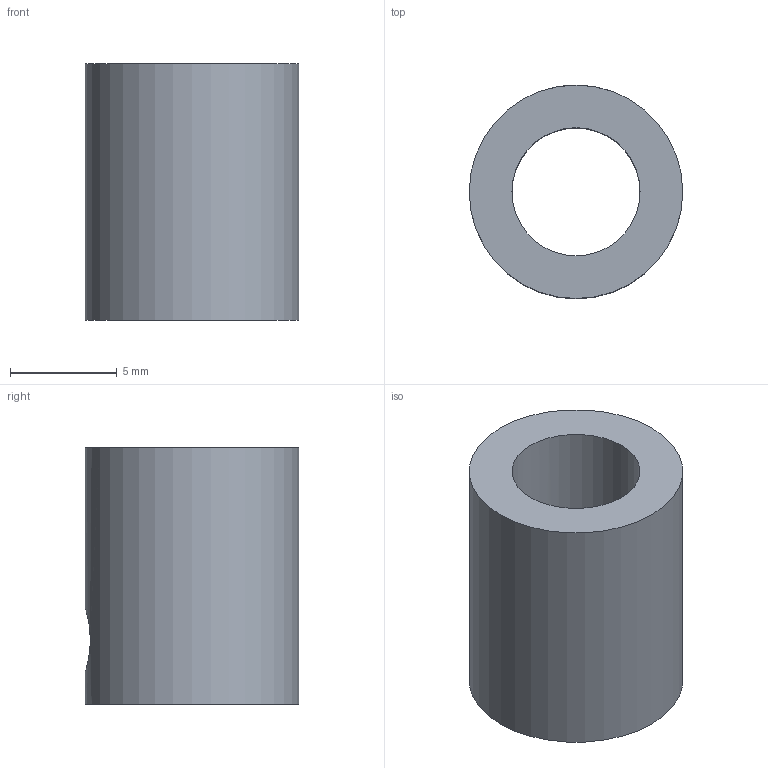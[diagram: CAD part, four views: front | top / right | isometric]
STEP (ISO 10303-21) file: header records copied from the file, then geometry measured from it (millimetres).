
FILE_DESCRIPTION(/* description */ (''),/* implementation_level */ '2;1');
FILE_NAME(/* name */ 'entretoise moteur roues.stp',/* time_stamp */ '2025-04-08T16:54:10+02:00',/* author */ ('enezl'),/* organization */ (''),/* preprocessor_version */ 'ST-DEVELOPER v20',/* originating_system */ 'Autodesk Inventor 2025',/* authorisation */ '');
FILE_SCHEMA (('AUTOMOTIVE_DESIGN { 1 0 10303 214 3 1 1 }'));
Length unit declared in the file: millimetre
Products named in the file (1): entretoise moteur roues
Bounding box: 10 x 10 x 12 mm (x, y, z)
Volume: 588.8 mm3; surface area: 708.9 mm2
Topology: 1 solids, 1 shells, 5 faces, 11 edges, 8 vertices
Faces by surface type: cylinder 3, plane 2
Full cylindrical faces by diameter (mm): 3 x1, 6 x1, 10 x1
Entity records: 256 total; most frequent: CARTESIAN_POINT 93, DIRECTION 23, ORIENTED_EDGE 22, EDGE_CURVE 11, AXIS2_PLACEMENT_3D 10, EDGE_LOOP 9, VERTEX_POINT 8, FACE_OUTER_BOUND 5
